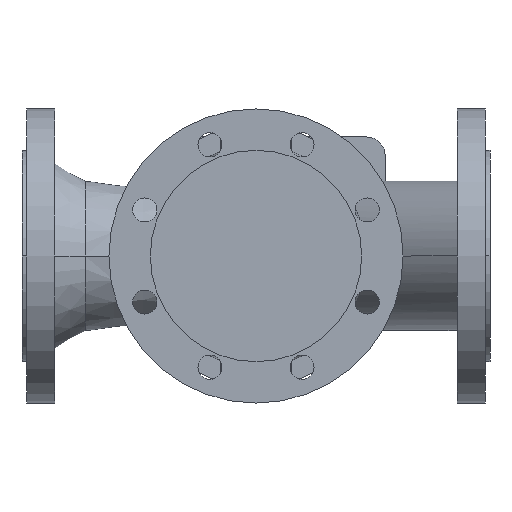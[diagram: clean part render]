
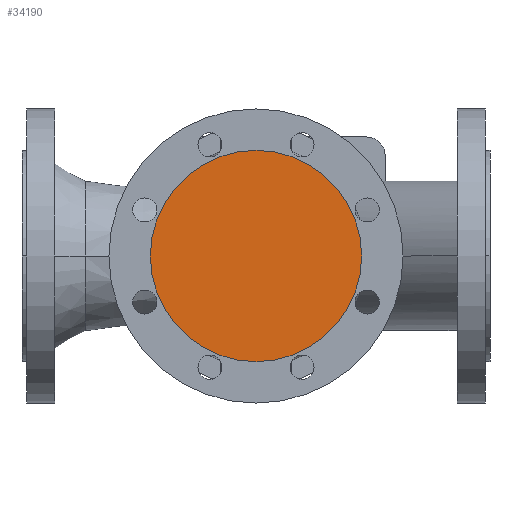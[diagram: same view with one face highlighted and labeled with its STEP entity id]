
A CAD part, front view. The second image highlights one B-rep face of the part: STEP entity #34190.
In plain terms, the highlighted planar face has unit normal (0, -1, 0).
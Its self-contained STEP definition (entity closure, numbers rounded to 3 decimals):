
#4560=CARTESIAN_POINT('',(96.,-150.,0.));
#4570=VERTEX_POINT('',#4560);
#4730=CARTESIAN_POINT('',(254.,-150.,0.));
#4740=VERTEX_POINT('',#4730);
#4770=CARTESIAN_POINT('',(175.,-150.,0.));
#4780=DIRECTION('',(0.,1.,0.));
#4790=DIRECTION('',(1.,0.,0.));
#4800=AXIS2_PLACEMENT_3D('',#4770,#4780,#4790);
#4810=CIRCLE('',#4800,79.);
#4820=EDGE_CURVE('',#4570,#4740,#4810,.T.);
#34090=CARTESIAN_POINT('',(214.5,-150.,0.));
#34100=DIRECTION('',(0.,-1.,0.));
#34110=DIRECTION('',(-1.,0.,0.));
#34120=AXIS2_PLACEMENT_3D('',#34090,#34100,#34110);
#34130=PLANE('',#34120);
#34140=EDGE_CURVE('',#4740,#4570,#4810,.T.);
#34150=ORIENTED_EDGE('',*,*,#34140,.F.);
#34160=ORIENTED_EDGE('',*,*,#4820,.F.);
#34170=EDGE_LOOP('',(#34160,#34150));
#34180=FACE_OUTER_BOUND('',#34170,.T.);
#34190=ADVANCED_FACE('',(#34180),#34130,.T.);
